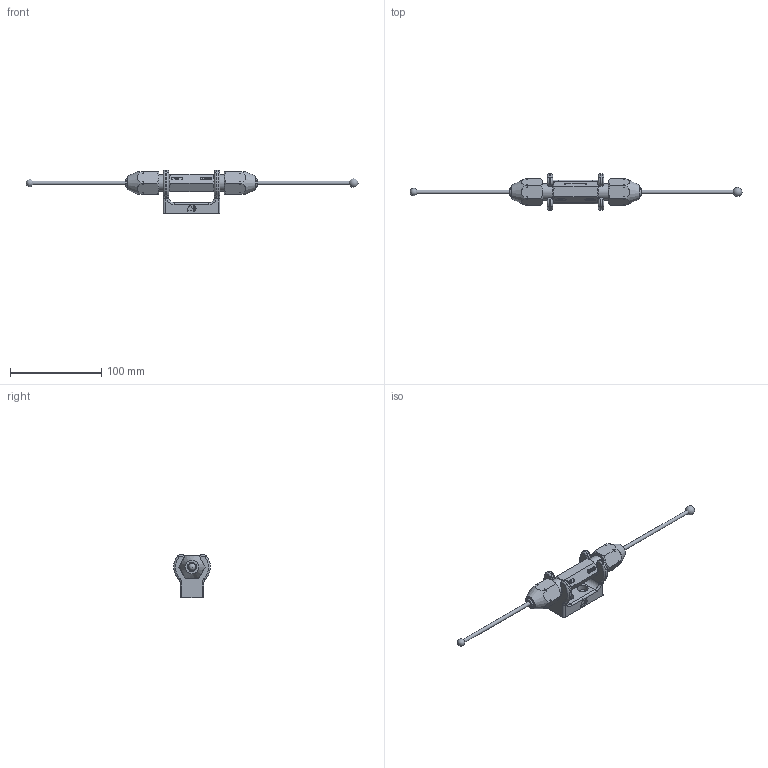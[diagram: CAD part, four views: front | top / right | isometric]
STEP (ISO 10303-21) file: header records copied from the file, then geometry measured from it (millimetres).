
FILE_DESCRIPTION(('STEP AP214'),'1');
FILE_NAME('fstifthalter_KPH_XL.stp','2025-07-05T16:03:17',(' '),(' '),'Spatial InterOp 3D',' ',' ');
FILE_SCHEMA(('AUTOMOTIVE_DESIGN { 1 0 10303 214 1 1 1 1 }'));
Length unit declared in the file: metre
Products named in the file (17): 1581539992; 1581539969; 1581539946; 1581539923; 1581539900; 1581539831; 1581537851; 1581536131; 1500208144; 1500205596; 1500205577; 1500192575; 1508519537; 1751308194; 1751308207; 1751308299; 1751308307
Bounding box: 363.27 x 40 x 47.51 mm (x, y, z)
Volume: 77024.4 mm3; surface area: 34987.3 mm2
Topology: 17 solids, 17 shells, 795 faces, 2091 edges, 1378 vertices
Faces by surface type: plane 359, extrusion 284, cylinder 92, torus 40, cone 14, bspline 4, sphere 2
Full cylindrical faces by diameter (mm): 4 x2, 7 x2, 12 x2, 18 x4, 22 x4
Entity records: 31818 total; most frequent: CARTESIAN_POINT 6627, ORIENTED_EDGE 4090, DIRECTION 3037, EDGE_CURVE 2045, VECTOR 1445, VERTEX_POINT 1356, LINE 1161, B_SPLINE_CURVE_WITH_KNOTS 896
